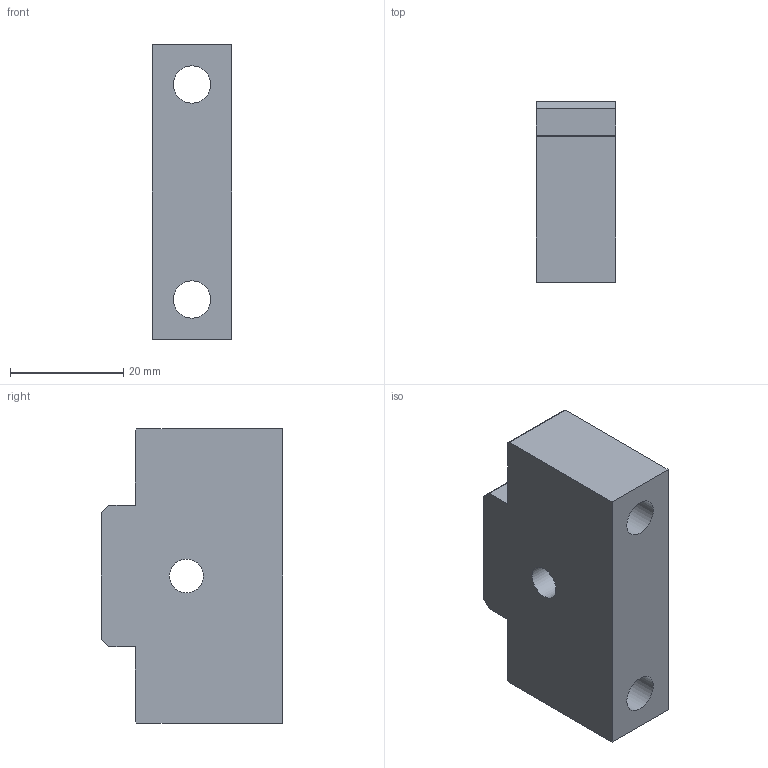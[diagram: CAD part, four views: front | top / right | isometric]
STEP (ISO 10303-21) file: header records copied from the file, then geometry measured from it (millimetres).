
FILE_DESCRIPTION(/* description */ (''),/* implementation_level */ '2;1');
FILE_NAME(/* name */ 'D:\Опора винта EF 01.000\Модели\Опора плавающая EF08 01.00.stp',/* time_stamp */ '2017-01-26T08:23:43+03:00',/* author */ ('t1'),/* organization */ ('TraceParts S.A.'),/* preprocessor_version */ 'ST-DEVELOPER v16.1',/* originating_system */ 'Autodesk Inventor 2016',/* authorisation */ '');
FILE_SCHEMA (('AUTOMOTIVE_DESIGN { 1 0 10303 214 3 1 1 }'));
Length unit declared in the file: millimetre
Products named in the file (1): Опора \X2\043F043B043004320430044E
04490430044F\X0\ EF08 01.00
Bounding box: 14 x 32 x 52 mm (x, y, z)
Volume: 16114.8 mm3; surface area: 7039.6 mm2
Topology: 1 solids, 1 shells, 23 faces, 57 edges, 39 vertices
Faces by surface type: plane 17, cylinder 6
Full cylindrical faces by diameter (mm): 6 x1, 6.6 x2, 11 x2, 15.6 x1
Entity records: 666 total; most frequent: DIRECTION 108, CARTESIAN_POINT 108, ORIENTED_EDGE 96, EDGE_CURVE 48, EDGE_LOOP 38, LINE 36, VECTOR 36, VERTEX_POINT 36
